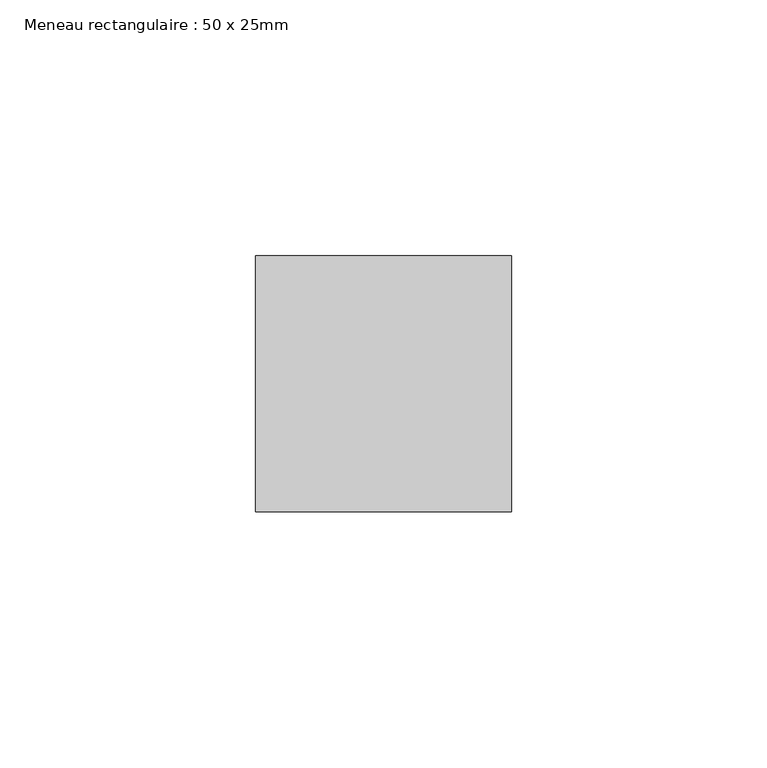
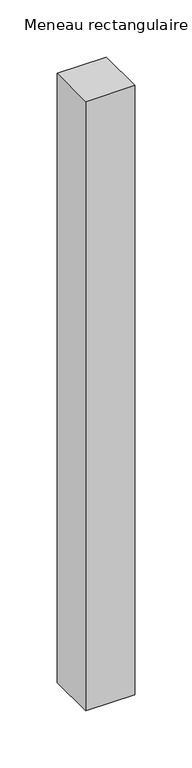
"""IFC4 building model written with IfcOpenShell, lengths in millimetres: member geometry, Meneau rectangulaire : 50 x 25mm."""

from ifc_helpers import new_model, si_unit, frame, origin, place, context, project, spatial, polyline, outline, extrude, source, transform, mapped, element, save


def meneau_rectangulaire_50_x_25mm_b3f23957(model_context):
    return source(origin(), model_context, "Body", "SweptSolid", [
        extrude(outline(polyline([(0.0, 50.0), (0.0, 0.0), (-50.0, 0.0), (-50.0, 50.0), (0.0, 50.0)])), frame((0.0, 0.0, -652.0), z_axis=(0.0, 0.0, 1.0), x_axis=(1.0, 0.0, 0.0)), (0.0, 0.0, 1.0), 652.0),
    ])


if __name__ == "__main__":
    model = new_model("IFC4")
    model_context = context("Model", 3, world=origin())
    ifc_project = project(units=[si_unit("LENGTHUNIT", "METRE", prefix="MILLI")], contexts=[model_context])
    site = spatial("IfcSite", under=ifc_project)
    building = spatial("IfcBuilding", under=site)
    placement = place(None, origin())
    meneau_rectangulaire_50_x_25mm_shape = meneau_rectangulaire_50_x_25mm_b3f23957(model_context)
    element("IfcMember", 1, ObjectType="Meneau rectangulaire : 50 x 25mm", at=placement, inside=building, context=model_context, shape_type="MappedRepresentation", body=[
        mapped(meneau_rectangulaire_50_x_25mm_shape, transform((0.0, 0.0, 0.0), x_axis=(1.0, 0.0, 0.0), y_axis=(0.0, 1.0, 0.0), z_axis=(0.0, 0.0, 1.0))),
    ])
    save(model, "model.ifc")
